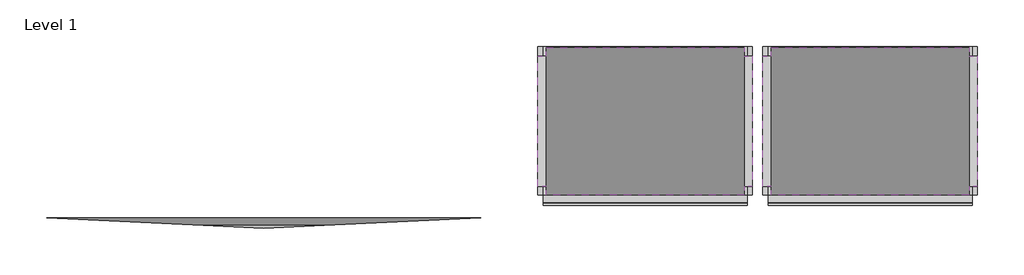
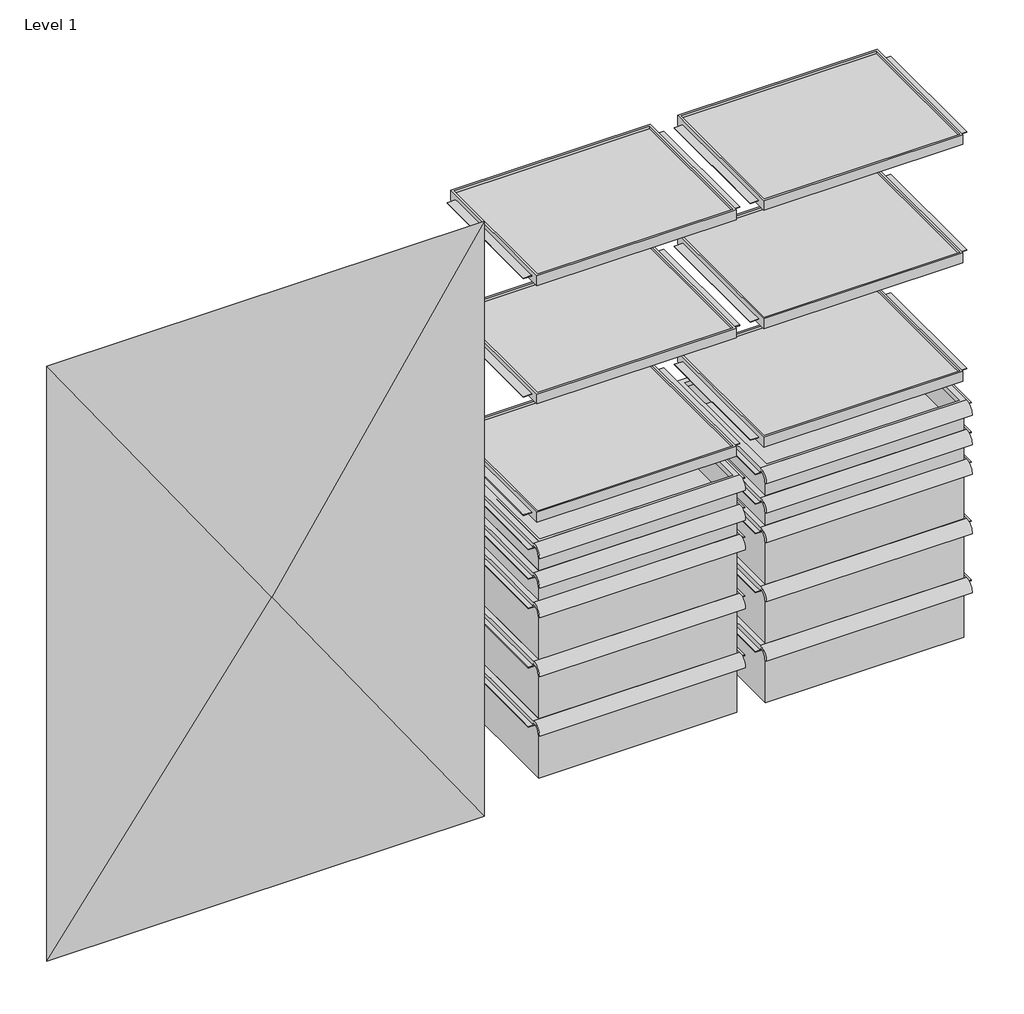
# One storey, incomplete: 17 furniture elements.
"""IFC4 building model written with IfcOpenShell, lengths in millimetres."""

from ifc_helpers import new_model, si_unit, origin, place, context, project, spatial, transform, mapped, element, save
from components import furniture_09c434e6, furniture_b08edb2a, furniture_f594aa21, furniture_e8bd7afb, furniture_41c99ade, furniture_c81ed478, sr_22_solid_shelf_a9f679cd, sr_22_solid_shelf_9a49573a, sr_22_solid_shelf_8c147d3a

model = new_model("IFC4")

# Units and contexts
model_context = context("Model", 3, world=origin())
ifc_project = project(units=[si_unit("LENGTHUNIT", "METRE", prefix="MILLI")], contexts=[model_context])

# Site, building, storey
site = spatial("IfcSite", under=ifc_project)
building = spatial("IfcBuilding", under=site)
storey = spatial("IfcBuildingStorey", under=building, Name="Level 1", Elevation=0.0)

# Furniture
placement = place(None, origin())
furniture_shape = furniture_09c434e6(model_context)
element("IfcFurniture", 1, ObjectType="HermanMiller_Carts_CT501_Drawer : 3\"H x 15\"D x 20\"W", at=placement, inside=storey, context=model_context, shape_type="MappedRepresentation", body=[
    mapped(furniture_shape, transform((355.4273295, -265.3924539, -1036.1394878), x_axis=(1.0, 0.0, 0.0), y_axis=(0.0, 1.0, 0.0), z_axis=(0.0, 0.0, 1.0))),
])
element("IfcFurniture", 2, ObjectType="HermanMiller_Carts_CT501_Drawer : 3\"H x 15\"D x 20\"W", at=placement, inside=storey, context=model_context, shape_type="MappedRepresentation", body=[
    mapped(furniture_shape, transform((907.8773295, -265.3924539, -1036.1394878), x_axis=(1.0, 0.0, 0.0), y_axis=(0.0, 1.0, 0.0), z_axis=(0.0, 0.0, 1.0))),
])
furniture_2_shape = furniture_b08edb2a(model_context)
element("IfcFurniture", 3, ObjectType="HermanMiller_Carts_CT501_Drawer : 3\"H x 15\"D x 20\"W", at=placement, inside=storey, context=model_context, shape_type="MappedRepresentation", body=[
    mapped(furniture_2_shape, transform((355.4273295, -265.3924539, -1036.1394878), x_axis=(1.0, 0.0, 0.0), y_axis=(0.0, 1.0, 0.0), z_axis=(0.0, 0.0, 1.0))),
])
element("IfcFurniture", 4, ObjectType="HermanMiller_Carts_CT501_Drawer : 3\"H x 15\"D x 20\"W", at=placement, inside=storey, context=model_context, shape_type="MappedRepresentation", body=[
    mapped(furniture_2_shape, transform((907.8773295, -265.3924539, -1036.1394878), x_axis=(1.0, 0.0, 0.0), y_axis=(0.0, 1.0, 0.0), z_axis=(0.0, 0.0, 1.0))),
])
furniture_3_shape = furniture_f594aa21(model_context)
element("IfcFurniture", 5, ObjectType="HermanMiller_Carts_CT501_Drawer : 6\"H x 15\"D x 20\"W", at=placement, inside=storey, context=model_context, shape_type="MappedRepresentation", body=[
    mapped(furniture_3_shape, transform((355.4273295, -265.3924539, -1036.1394878), x_axis=(1.0, 0.0, 0.0), y_axis=(0.0, 1.0, 0.0), z_axis=(0.0, 0.0, 1.0))),
])
element("IfcFurniture", 6, ObjectType="HermanMiller_Carts_CT501_Drawer : 6\"H x 15\"D x 20\"W", at=placement, inside=storey, context=model_context, shape_type="MappedRepresentation", body=[
    mapped(furniture_3_shape, transform((907.8773295, -265.3924539, -1036.1394878), x_axis=(1.0, 0.0, 0.0), y_axis=(0.0, 1.0, 0.0), z_axis=(0.0, 0.0, 1.0))),
])
furniture_4_shape = furniture_e8bd7afb(model_context)
element("IfcFurniture", 7, ObjectType="HermanMiller_Carts_CT501_Drawer : 6\"H x 15\"D x 20\"W", at=placement, inside=storey, context=model_context, shape_type="MappedRepresentation", body=[
    mapped(furniture_4_shape, transform((355.4273295, -265.3924539, -1036.1394878), x_axis=(1.0, 0.0, 0.0), y_axis=(0.0, 1.0, 0.0), z_axis=(0.0, 0.0, 1.0))),
])
element("IfcFurniture", 8, ObjectType="HermanMiller_Carts_CT501_Drawer : 6\"H x 15\"D x 20\"W", at=placement, inside=storey, context=model_context, shape_type="MappedRepresentation", body=[
    mapped(furniture_4_shape, transform((907.8773295, -265.3924539, -1036.1394878), x_axis=(1.0, 0.0, 0.0), y_axis=(0.0, 1.0, 0.0), z_axis=(0.0, 0.0, 1.0))),
])
furniture_5_shape = furniture_41c99ade(model_context)
element("IfcFurniture", 9, ObjectType="HermanMiller_Carts_CT501_Drawer : 6\"H x 15\"D x 20\"W", at=placement, inside=storey, context=model_context, shape_type="MappedRepresentation", body=[
    mapped(furniture_5_shape, transform((355.4273295, -265.3924539, -1036.1394878), x_axis=(1.0, 0.0, 0.0), y_axis=(0.0, 1.0, 0.0), z_axis=(0.0, 0.0, 1.0))),
])
element("IfcFurniture", 10, ObjectType="HermanMiller_Carts_CT501_Drawer : 6\"H x 15\"D x 20\"W", at=placement, inside=storey, context=model_context, shape_type="MappedRepresentation", body=[
    mapped(furniture_5_shape, transform((907.8773295, -265.3924539, -1036.1394878), x_axis=(1.0, 0.0, 0.0), y_axis=(0.0, 1.0, 0.0), z_axis=(0.0, 0.0, 1.0))),
])
furniture_6_shape = furniture_c81ed478(model_context)
element("IfcFurniture", 11, ObjectType="HermanMiller_Carts_CT703_Curtain : 20\"W Dbl-Wide", at=placement, inside=storey, context=model_context, shape_type="MappedRepresentation", body=[
    mapped(furniture_6_shape, transform((-1211.5301718, -578.1807502, -1036.1394878), x_axis=(1.0, 0.0, 0.0), y_axis=(0.0, 1.0, 0.0), z_axis=(0.0, 0.0, 1.0))),
])
sr_22_solid_shelf_shape = sr_22_solid_shelf_a9f679cd(model_context)
element("IfcFurniture", 12, ObjectType="HermanMiller_Carts_CT521_CartShelf : Sr 22 Solid Shelf", at=placement, inside=storey, context=model_context, shape_type="MappedRepresentation", body=[
    mapped(sr_22_solid_shelf_shape, transform((977.8824811, -228.8799539, -1036.1394878), x_axis=(1.0, 0.0, 0.0), y_axis=(0.0, 1.0, 0.0), z_axis=(0.0, 0.0, 1.0))),
])
element("IfcFurniture", 13, ObjectType="HermanMiller_Carts_CT521_CartShelf : Sr 22 Solid Shelf", at=placement, inside=storey, context=model_context, shape_type="MappedRepresentation", body=[
    mapped(sr_22_solid_shelf_shape, transform((425.4324811, -228.8799539, -1036.1394878), x_axis=(1.0, 0.0, 0.0), y_axis=(0.0, 1.0, 0.0), z_axis=(0.0, 0.0, 1.0))),
])
sr_22_solid_shelf_2_shape = sr_22_solid_shelf_9a49573a(model_context)
element("IfcFurniture", 14, ObjectType="HermanMiller_Carts_CT521_CartShelf : Sr 22 Solid Shelf", at=placement, inside=storey, context=model_context, shape_type="MappedRepresentation", body=[
    mapped(sr_22_solid_shelf_2_shape, transform((977.8824811, -228.8799539, -1036.1394878), x_axis=(1.0, 0.0, 0.0), y_axis=(0.0, 1.0, 0.0), z_axis=(0.0, 0.0, 1.0))),
])
element("IfcFurniture", 15, ObjectType="HermanMiller_Carts_CT521_CartShelf : Sr 22 Solid Shelf", at=placement, inside=storey, context=model_context, shape_type="MappedRepresentation", body=[
    mapped(sr_22_solid_shelf_2_shape, transform((425.4324811, -228.8799539, -1036.1394878), x_axis=(1.0, 0.0, 0.0), y_axis=(0.0, 1.0, 0.0), z_axis=(0.0, 0.0, 1.0))),
])
sr_22_solid_shelf_3_shape = sr_22_solid_shelf_8c147d3a(model_context)
element("IfcFurniture", 16, ObjectType="HermanMiller_Carts_CT521_CartShelf : Sr 22 Solid Shelf", at=placement, inside=storey, context=model_context, shape_type="MappedRepresentation", body=[
    mapped(sr_22_solid_shelf_3_shape, transform((977.8824811, -228.8799539, -1036.1394878), x_axis=(1.0, 0.0, 0.0), y_axis=(0.0, 1.0, 0.0), z_axis=(0.0, 0.0, 1.0))),
])
element("IfcFurniture", 17, ObjectType="HermanMiller_Carts_CT521_CartShelf : Sr 22 Solid Shelf", at=placement, inside=storey, context=model_context, shape_type="MappedRepresentation", body=[
    mapped(sr_22_solid_shelf_3_shape, transform((425.4324811, -228.8799539, -1036.1394878), x_axis=(1.0, 0.0, 0.0), y_axis=(0.0, 1.0, 0.0), z_axis=(0.0, 0.0, 1.0))),
])

save(model, "model.ifc")
